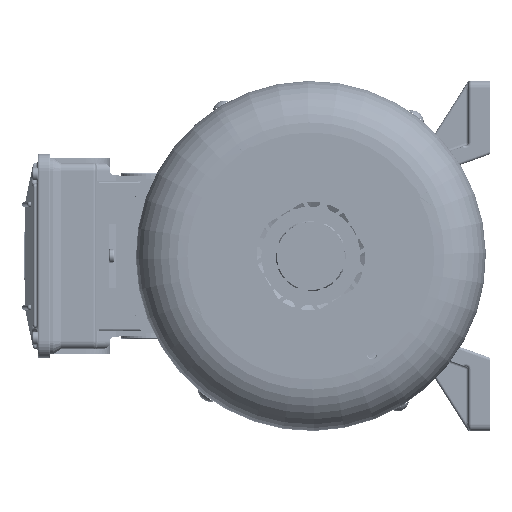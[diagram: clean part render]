
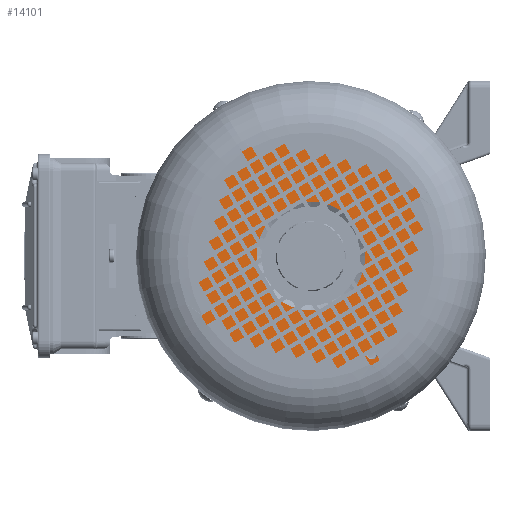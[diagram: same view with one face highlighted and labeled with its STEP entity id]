
A CAD part, left-side view. The second image highlights one B-rep face of the part: STEP entity #14101.
In plain terms, the highlighted planar face has unit normal (-1, 0, 0) as drawn and (0, 1, 0) by its records, which use the part's own axes.
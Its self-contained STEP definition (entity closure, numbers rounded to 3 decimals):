
#1183 = DIRECTION ( 'NONE',  ( 0., 0., 1. ) ) ;
#3015 = EDGE_LOOP ( 'NONE', ( #188487, #6571 ) ) ;
#3333 = CARTESIAN_POINT ( 'NONE',  ( 39.905, 49.5, -75.051 ) ) ;
#3673 = CARTESIAN_POINT ( 'NONE',  ( 0., 49.5, -101. ) ) ;
#5321 = CARTESIAN_POINT ( 'NONE',  ( 39.905, 49.5, -79.076 ) ) ;
#6571 = ORIENTED_EDGE ( 'NONE', *, *, #21585, .F. ) ;
#9609 = CARTESIAN_POINT ( 'NONE',  ( 45.043, 49.5, 76.109 ) ) ;
#10225 = ORIENTED_EDGE ( 'NONE', *, *, #88660, .T. ) ;
#11964 = CIRCLE ( 'NONE', #179692, 4.025 ) ;
#12375 = VERTEX_POINT ( 'NONE', #108909 ) ;
#14101 = ADVANCED_FACE ( 'NONE', ( #23447, #98302, #137914, #58547, #18750 ), #133395, .T. ) ;
#14515 = DIRECTION ( 'NONE',  ( 0., 0., 1. ) ) ;
#16501 = CIRCLE ( 'NONE', #54660, 101. ) ;
#17190 = CIRCLE ( 'NONE', #54342, 4.025 ) ;
#17364 = ORIENTED_EDGE ( 'NONE', *, *, #125329, .F. ) ;
#18060 = DIRECTION ( 'NONE',  ( 0., 1., 0. ) ) ;
#18410 = DIRECTION ( 'NONE',  ( 0., 0., 1. ) ) ;
#18750 = FACE_BOUND ( 'NONE', #182954, .T. ) ;
#21585 = EDGE_CURVE ( 'NONE', #93158, #142661, #168640, .T. ) ;
#21829 = VERTEX_POINT ( 'NONE', #113157 ) ;
#23447 = FACE_BOUND ( 'NONE', #54993, .T. ) ;
#29725 = CIRCLE ( 'NONE', #39075, 40. ) ;
#39075 = AXIS2_PLACEMENT_3D ( 'NONE', #107572, #18060, #122496 ) ;
#39085 = CIRCLE ( 'NONE', #88481, 4.025 ) ;
#39240 = EDGE_CURVE ( 'NONE', #12375, #182885, #29725, .T. ) ;
#46589 = DIRECTION ( 'NONE',  ( 0., 1., 0. ) ) ;
#54342 = AXIS2_PLACEMENT_3D ( 'NONE', #61770, #166213, #76807 ) ;
#54509 = AXIS2_PLACEMENT_3D ( 'NONE', #3333, #107906, #18410 ) ;
#54660 = AXIS2_PLACEMENT_3D ( 'NONE', #154105, #64697, #169162 ) ;
#54993 = EDGE_LOOP ( 'NONE', ( #92810, #17364 ) ) ;
#56073 = CARTESIAN_POINT ( 'NONE',  ( 45.043, 49.5, 72.084 ) ) ;
#57560 = CARTESIAN_POINT ( 'NONE',  ( 39.905, 49.5, -75.051 ) ) ;
#58547 = FACE_OUTER_BOUND ( 'NONE', #166428, .T. ) ;
#61770 = CARTESIAN_POINT ( 'NONE',  ( -84.948, 49.5, 2.966 ) ) ;
#62213 = ORIENTED_EDGE ( 'NONE', *, *, #188238, .F. ) ;
#63191 = CARTESIAN_POINT ( 'NONE',  ( 45.043, 49.5, 68.059 ) ) ;
#64680 = AXIS2_PLACEMENT_3D ( 'NONE', #136041, #46589, #151063 ) ;
#64697 = DIRECTION ( 'NONE',  ( 0., 1., 0. ) ) ;
#66643 = VERTEX_POINT ( 'NONE', #85873 ) ;
#71097 = DIRECTION ( 'NONE',  ( 0., 0., 1. ) ) ;
#72608 = DIRECTION ( 'NONE',  ( 0., 0., 1. ) ) ;
#72921 = CARTESIAN_POINT ( 'NONE',  ( 0., 49.5, 0. ) ) ;
#76807 = DIRECTION ( 'NONE',  ( 0., 0., 1. ) ) ;
#82067 = EDGE_CURVE ( 'NONE', #139763, #128846, #174820, .T. ) ;
#85873 = CARTESIAN_POINT ( 'NONE',  ( -84.948, 49.5, -1.059 ) ) ;
#86773 = DIRECTION ( 'NONE',  ( 0., 1., 0. ) ) ;
#87997 = DIRECTION ( 'NONE',  ( 0., 0., 1. ) ) ;
#88481 = AXIS2_PLACEMENT_3D ( 'NONE', #56073, #160486, #71097 ) ;
#88660 = EDGE_CURVE ( 'NONE', #128846, #139763, #16501, .T. ) ;
#90172 = ORIENTED_EDGE ( 'NONE', *, *, #186330, .F. ) ;
#90354 = ORIENTED_EDGE ( 'NONE', *, *, #111876, .F. ) ;
#90845 = DIRECTION ( 'NONE',  ( 0., 1., 0. ) ) ;
#91404 = AXIS2_PLACEMENT_3D ( 'NONE', #193557, #104039, #14515 ) ;
#92810 = ORIENTED_EDGE ( 'NONE', *, *, #155700, .F. ) ;
#93158 = VERTEX_POINT ( 'NONE', #63191 ) ;
#95116 = EDGE_LOOP ( 'NONE', ( #90172, #62213 ) ) ;
#98302 = FACE_BOUND ( 'NONE', #3015, .T. ) ;
#100932 = CARTESIAN_POINT ( 'NONE',  ( 39.905, 49.5, -71.026 ) ) ;
#102617 = VERTEX_POINT ( 'NONE', #100932 ) ;
#104039 = DIRECTION ( 'NONE',  ( 0., 1., 0. ) ) ;
#105120 = AXIS2_PLACEMENT_3D ( 'NONE', #57560, #161970, #72608 ) ;
#107572 = CARTESIAN_POINT ( 'NONE',  ( 0., 49.5, 0. ) ) ;
#107906 = DIRECTION ( 'NONE',  ( 0., 1., 0. ) ) ;
#108909 = CARTESIAN_POINT ( 'NONE',  ( 0., 49.5, 40. ) ) ;
#111876 = EDGE_CURVE ( 'NONE', #182885, #12375, #162566, .T. ) ;
#113157 = CARTESIAN_POINT ( 'NONE',  ( -84.948, 49.5, 6.991 ) ) ;
#120947 = CARTESIAN_POINT ( 'NONE',  ( 0., 49.5, -40. ) ) ;
#122496 = DIRECTION ( 'NONE',  ( 0., 0., 1. ) ) ;
#125329 = EDGE_CURVE ( 'NONE', #164396, #102617, #170912, .T. ) ;
#128846 = VERTEX_POINT ( 'NONE', #144485 ) ;
#131957 = ORIENTED_EDGE ( 'NONE', *, *, #82067, .T. ) ;
#133395 = PLANE ( 'NONE',  #91404 ) ;
#136041 = CARTESIAN_POINT ( 'NONE',  ( 45.043, 49.5, 72.084 ) ) ;
#137914 = FACE_BOUND ( 'NONE', #95116, .T. ) ;
#139763 = VERTEX_POINT ( 'NONE', #3673 ) ;
#142661 = VERTEX_POINT ( 'NONE', #9609 ) ;
#144485 = CARTESIAN_POINT ( 'NONE',  ( 0., 49.5, 101. ) ) ;
#151063 = DIRECTION ( 'NONE',  ( 0., 0., 1. ) ) ;
#154105 = CARTESIAN_POINT ( 'NONE',  ( 0., 49.5, 0. ) ) ;
#155700 = EDGE_CURVE ( 'NONE', #102617, #164396, #166369, .T. ) ;
#160486 = DIRECTION ( 'NONE',  ( 0., 1., 0. ) ) ;
#161970 = DIRECTION ( 'NONE',  ( 0., 1., 0. ) ) ;
#162566 = CIRCLE ( 'NONE', #169150, 40. ) ;
#164396 = VERTEX_POINT ( 'NONE', #5321 ) ;
#166213 = DIRECTION ( 'NONE',  ( 0., 1., 0. ) ) ;
#166369 = CIRCLE ( 'NONE', #105120, 4.025 ) ;
#166428 = EDGE_LOOP ( 'NONE', ( #10225, #131957 ) ) ;
#166455 = AXIS2_PLACEMENT_3D ( 'NONE', #176131, #86773, #191191 ) ;
#167574 = ORIENTED_EDGE ( 'NONE', *, *, #39240, .F. ) ;
#168640 = CIRCLE ( 'NONE', #64680, 4.025 ) ;
#169150 = AXIS2_PLACEMENT_3D ( 'NONE', #72921, #177361, #87997 ) ;
#169162 = DIRECTION ( 'NONE',  ( 0., 0., 1. ) ) ;
#170912 = CIRCLE ( 'NONE', #54509, 4.025 ) ;
#174820 = CIRCLE ( 'NONE', #166455, 101. ) ;
#176131 = CARTESIAN_POINT ( 'NONE',  ( 0., 49.5, 0. ) ) ;
#177361 = DIRECTION ( 'NONE',  ( 0., 1., 0. ) ) ;
#178459 = EDGE_CURVE ( 'NONE', #142661, #93158, #39085, .T. ) ;
#179692 = AXIS2_PLACEMENT_3D ( 'NONE', #180208, #90845, #1183 ) ;
#180208 = CARTESIAN_POINT ( 'NONE',  ( -84.948, 49.5, 2.966 ) ) ;
#182885 = VERTEX_POINT ( 'NONE', #120947 ) ;
#182954 = EDGE_LOOP ( 'NONE', ( #167574, #90354 ) ) ;
#186330 = EDGE_CURVE ( 'NONE', #21829, #66643, #17190, .T. ) ;
#188238 = EDGE_CURVE ( 'NONE', #66643, #21829, #11964, .T. ) ;
#188487 = ORIENTED_EDGE ( 'NONE', *, *, #178459, .F. ) ;
#191191 = DIRECTION ( 'NONE',  ( 0., 0., 1. ) ) ;
#193557 = CARTESIAN_POINT ( 'NONE',  ( -101., 49.5, 0. ) ) ;
